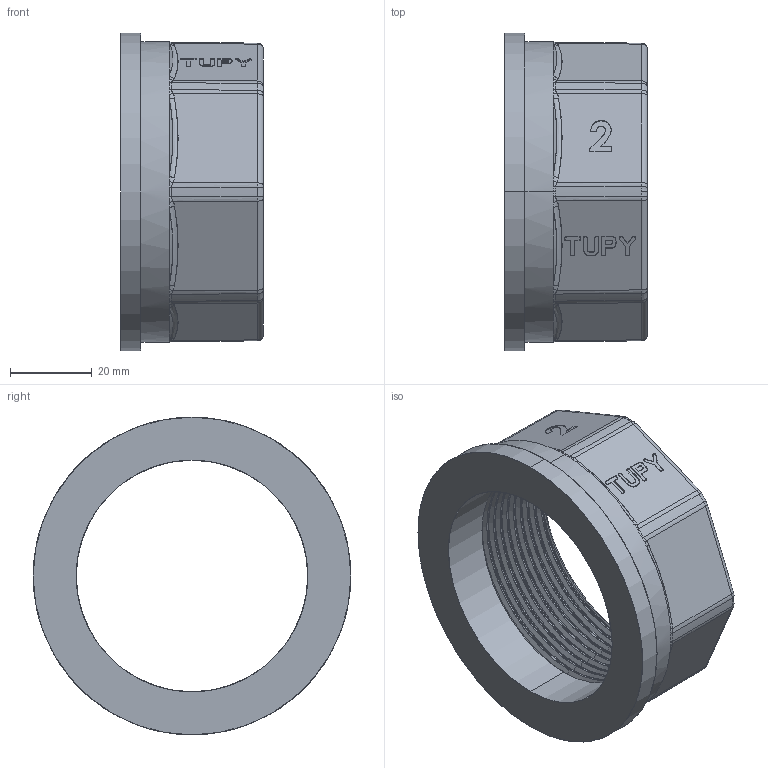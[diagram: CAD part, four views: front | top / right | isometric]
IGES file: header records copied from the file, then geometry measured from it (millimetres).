
Start section: SolidWorks IGES file using analytic representation for surfaces
Global section: file name: C:\Users\Joel Rosa\Desktop\Tubulação\12-83-OK\12-83-010.IGS; native system: SolidWorks 2011; preprocessor: SolidWorks 2011; author: Joel Rosa; date: 131217.000838; units: millimetre
Bounding box: 35 x 77.8 x 77.8 mm (x, y, z)
Surface area: 21131.9 mm2 (no closed solid volume)
Topology: 0 solids, 0 shells, 312 faces, 2492 edges, 2492 vertices
Faces by surface type: bspline 239, revolution 73
